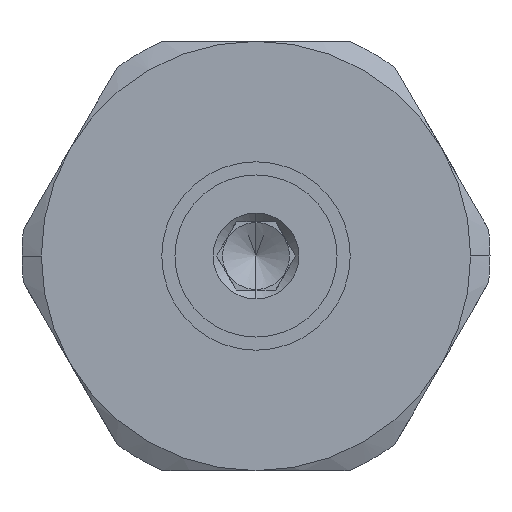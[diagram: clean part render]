
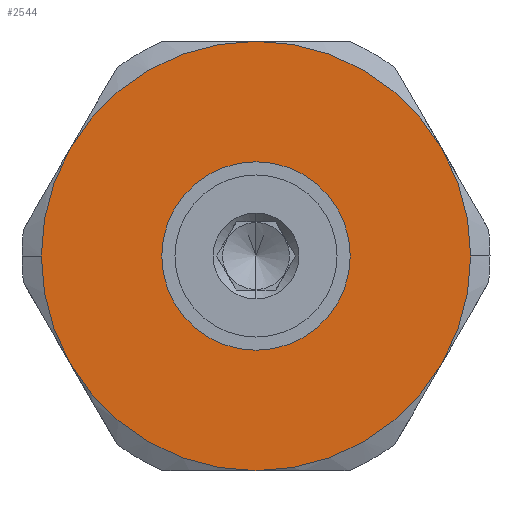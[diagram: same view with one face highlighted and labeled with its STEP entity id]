
A CAD part, left-side view. The second image highlights one B-rep face of the part: STEP entity #2544.
In plain terms, the highlighted planar face has unit normal (-1, 0, 0).
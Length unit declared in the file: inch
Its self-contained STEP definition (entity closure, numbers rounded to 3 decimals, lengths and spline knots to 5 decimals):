
#2124=CARTESIAN_POINT('',(-0.045,0.5,1.955));
#2125=VERTEX_POINT('',#2124);
#2141=CARTESIAN_POINT('',(-0.045,0.43301,1.705));
#2142=VERTEX_POINT('',#2141);
#2156=CARTESIAN_POINT('',(-0.045,0.,1.955));
#2157=DIRECTION('',(-1.0,0.0,0.0));
#2158=DIRECTION('',(0.0,1.0,0.0));
#2159=AXIS2_PLACEMENT_3D('',#2156,#2157,#2158);
#2160=CIRCLE('',#2159,0.5);
#2161=EDGE_CURVE('',#2125,#2142,#2160,.T.);
#2171=CARTESIAN_POINT('',(-0.045,-0.5,1.955));
#2172=VERTEX_POINT('',#2171);
#2179=CARTESIAN_POINT('',(-0.045,-0.43301,1.705));
#2180=VERTEX_POINT('',#2179);
#2181=CARTESIAN_POINT('',(-0.045,0.,1.955));
#2182=DIRECTION('',(-1.0,0.0,0.0));
#2183=DIRECTION('',(0.0,1.0,0.0));
#2184=AXIS2_PLACEMENT_3D('',#2181,#2182,#2183);
#2185=CIRCLE('',#2184,0.5);
#2186=EDGE_CURVE('',#2180,#2172,#2185,.T.);
#2210=CARTESIAN_POINT('',(-0.045,0.2195,1.955));
#2211=VERTEX_POINT('',#2210);
#2220=CARTESIAN_POINT('',(-0.045,-0.2195,1.955));
#2221=VERTEX_POINT('',#2220);
#2222=CARTESIAN_POINT('',(-0.045,0.,1.955));
#2223=DIRECTION('',(1.0,0.0,0.0));
#2224=DIRECTION('',(0.0,1.0,0.0));
#2225=AXIS2_PLACEMENT_3D('',#2222,#2223,#2224);
#2226=CIRCLE('',#2225,0.2195);
#2227=EDGE_CURVE('',#2221,#2211,#2226,.T.);
#2471=CARTESIAN_POINT('',(-0.045,0.,1.955));
#2472=DIRECTION('',(1.0,0.0,0.0));
#2473=DIRECTION('',(0.0,1.0,0.0));
#2474=AXIS2_PLACEMENT_3D('',#2471,#2472,#2473);
#2475=CIRCLE('',#2474,0.2195);
#2476=EDGE_CURVE('',#2211,#2221,#2475,.T.);
#2481=CARTESIAN_POINT('',(-0.045,0.,1.955));
#2482=DIRECTION('',(1.0,0.0,0.0));
#2483=DIRECTION('',(0.0,0.0,-1.0));
#2484=AXIS2_PLACEMENT_3D('',#2481,#2482,#2483);
#2485=PLANE('',#2484);
#2486=CARTESIAN_POINT('',(-0.045,-0.43301,2.205));
#2487=VERTEX_POINT('',#2486);
#2488=CARTESIAN_POINT('',(-0.045,0.,2.455));
#2489=VERTEX_POINT('',#2488);
#2490=CARTESIAN_POINT('',(-0.045,0.,1.955));
#2491=DIRECTION('',(-1.0,0.0,0.0));
#2492=DIRECTION('',(0.0,1.0,0.0));
#2493=AXIS2_PLACEMENT_3D('',#2490,#2491,#2492);
#2494=CIRCLE('',#2493,0.5);
#2495=EDGE_CURVE('',#2487,#2489,#2494,.T.);
#2496=ORIENTED_EDGE('',*,*,#2495,.T.);
#2497=CARTESIAN_POINT('',(-0.045,0.43301,2.205));
#2498=VERTEX_POINT('',#2497);
#2499=CARTESIAN_POINT('',(-0.045,0.,1.955));
#2500=DIRECTION('',(-1.0,0.0,0.0));
#2501=DIRECTION('',(0.0,1.0,0.0));
#2502=AXIS2_PLACEMENT_3D('',#2499,#2500,#2501);
#2503=CIRCLE('',#2502,0.5);
#2504=EDGE_CURVE('',#2489,#2498,#2503,.T.);
#2505=ORIENTED_EDGE('',*,*,#2504,.T.);
#2506=CARTESIAN_POINT('',(-0.045,0.,1.955));
#2507=DIRECTION('',(-1.0,0.0,0.0));
#2508=DIRECTION('',(0.0,1.0,0.0));
#2509=AXIS2_PLACEMENT_3D('',#2506,#2507,#2508);
#2510=CIRCLE('',#2509,0.5);
#2511=EDGE_CURVE('',#2498,#2125,#2510,.T.);
#2512=ORIENTED_EDGE('',*,*,#2511,.T.);
#2513=ORIENTED_EDGE('',*,*,#2161,.T.);
#2514=CARTESIAN_POINT('',(-0.045,0.,1.455));
#2515=VERTEX_POINT('',#2514);
#2516=CARTESIAN_POINT('',(-0.045,0.,1.955));
#2517=DIRECTION('',(-1.0,0.0,0.0));
#2518=DIRECTION('',(0.0,1.0,0.0));
#2519=AXIS2_PLACEMENT_3D('',#2516,#2517,#2518);
#2520=CIRCLE('',#2519,0.5);
#2521=EDGE_CURVE('',#2142,#2515,#2520,.T.);
#2522=ORIENTED_EDGE('',*,*,#2521,.T.);
#2523=CARTESIAN_POINT('',(-0.045,0.,1.955));
#2524=DIRECTION('',(-1.0,0.0,0.0));
#2525=DIRECTION('',(0.0,1.0,0.0));
#2526=AXIS2_PLACEMENT_3D('',#2523,#2524,#2525);
#2527=CIRCLE('',#2526,0.5);
#2528=EDGE_CURVE('',#2515,#2180,#2527,.T.);
#2529=ORIENTED_EDGE('',*,*,#2528,.T.);
#2530=ORIENTED_EDGE('',*,*,#2186,.T.);
#2531=CARTESIAN_POINT('',(-0.045,0.,1.955));
#2532=DIRECTION('',(-1.0,0.0,0.0));
#2533=DIRECTION('',(0.0,1.0,0.0));
#2534=AXIS2_PLACEMENT_3D('',#2531,#2532,#2533);
#2535=CIRCLE('',#2534,0.5);
#2536=EDGE_CURVE('',#2172,#2487,#2535,.T.);
#2537=ORIENTED_EDGE('',*,*,#2536,.T.);
#2538=EDGE_LOOP('',(#2496,#2505,#2512,#2513,#2522,#2529,#2530,#2537));
#2539=FACE_OUTER_BOUND('',#2538,.T.);
#2540=ORIENTED_EDGE('',*,*,#2476,.T.);
#2541=ORIENTED_EDGE('',*,*,#2227,.T.);
#2542=EDGE_LOOP('',(#2540,#2541));
#2543=FACE_BOUND('',#2542,.T.);
#2544=ADVANCED_FACE('',(#2539,#2543),#2485,.F.);
